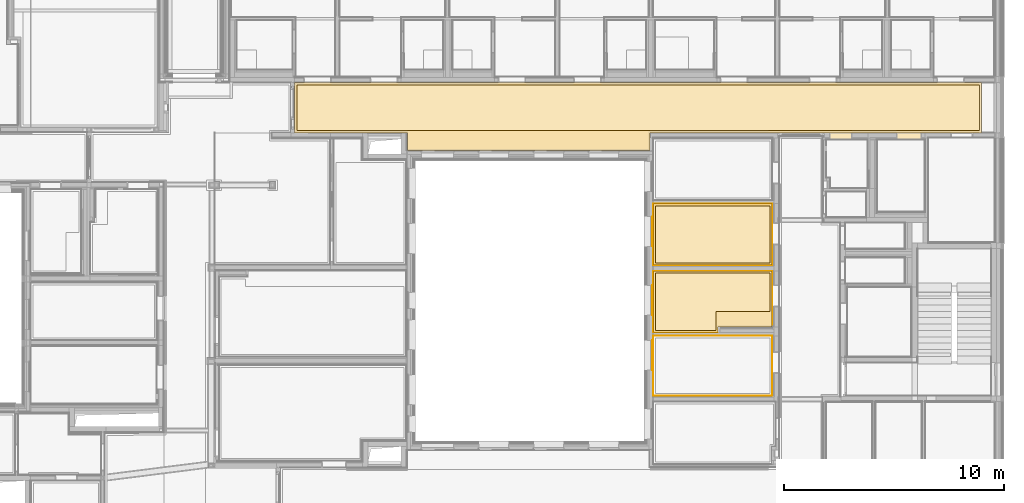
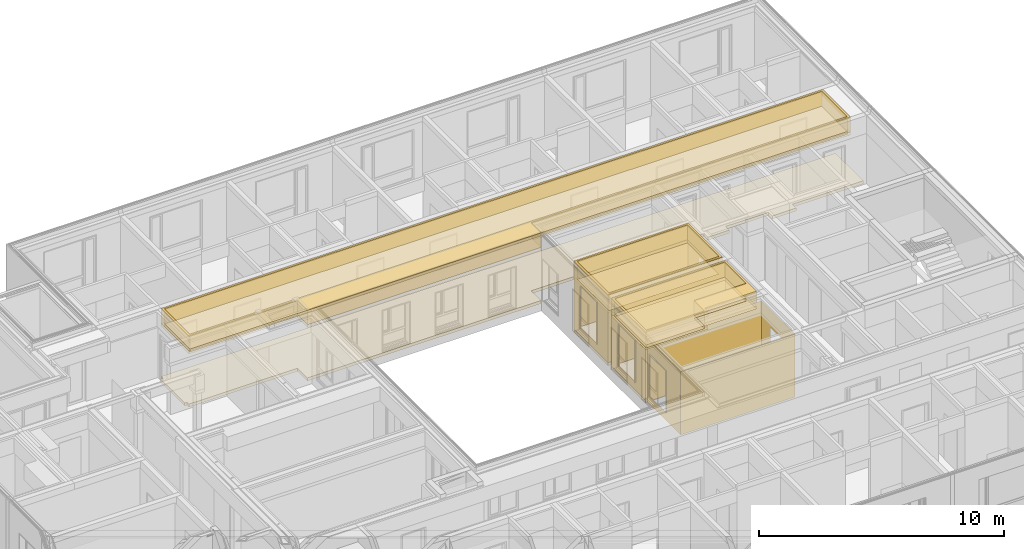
# One storey, part 192 of 222: 30 coverings.
"""IFC4 building model written with IfcOpenShell, lengths in metres."""

from ifc_helpers import new_model, entity, si_unit, converted_unit, derived_unit, frame, frame_2d, origin, origin_with_axes, place, context, subcontext, project, spatial, polyline, rectangle, outline, extrude, material, layer, layer_set, layer_usage, element, save


model = new_model("IFC4")

# Units and contexts
model_context = context("Model", 3, precision=1e-05, world=origin())
body_context = subcontext(model_context, "Body", "Model", "MODEL_VIEW")
ifc_project = project(units=[si_unit("LENGTHUNIT", "METRE"), si_unit("AREAUNIT", "SQUARE_METRE"), si_unit("VOLUMEUNIT", "CUBIC_METRE"), si_unit("MASSUNIT", "GRAM", prefix="KILO"), converted_unit("PLANEANGLEUNIT", "DEGREE", entity("IfcPlaneAngleMeasure", 0.0174532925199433), si_unit("PLANEANGLEUNIT", "RADIAN"), dimensions=[0, 0, 0, 0, 0, 0, 0]), derived_unit("THERMALTRANSMITTANCEUNIT", [(si_unit("POWERUNIT", "WATT"), 1), (si_unit("THERMODYNAMICTEMPERATUREUNIT", "KELVIN"), -1), (si_unit("LENGTHUNIT", "METRE"), -2)]), derived_unit("VOLUMETRICFLOWRATEUNIT", [(si_unit("LENGTHUNIT", "METRE"), 3), (converted_unit("TIMEUNIT", "hour", entity("IfcTimeMeasure", 3600.0), si_unit("TIMEUNIT", "SECOND"), dimensions=[0, 0, 1, 0, 0, 0, 0]), -1), (si_unit("LENGTHUNIT", "METRE"), -1)])], contexts=[model_context])

# Site, building, storey, space
site_placement = place(None, origin())
site = spatial("IfcSite", under=ifc_project, at=site_placement, Name="Psychiatrie Neubau Wunstorf", CompositionType="ELEMENT")
building_placement = place(site_placement, origin())
building = spatial("IfcBuilding", under=site, at=building_placement, Name="Neubau H2 Stationsgebäude", CompositionType="ELEMENT")
storey_placement = place(building_placement, frame((0.0, 0.0, 3.6)))
storey = spatial("IfcBuildingStorey", under=building, at=storey_placement, Name="H2 Ebene +1", CompositionType="ELEMENT", Elevation=3.6)
space_1_placement = place(storey_placement, frame((74.055, 22.036, 0.0)))
space_1 = spatial("IfcSpace", under=storey, at=space_1_placement, Name="WUN-H2-E01-073", CompositionType="ELEMENT")

# Coverings
ifc_material_1 = material()
ifc_layer_1 = layer(ifc_material_1, 0.036)
ifc_layer_set_1 = layer_set([ifc_layer_1])
ifc_layer_usage_1 = layer_usage(ifc_layer_set_1, "AXIS3", "POSITIVE", 0.0)
covering_1_placement = place(space_1_placement, frame((0.0, 0.0, 3.55)))
element("IfcCovering", 1, at=covering_1_placement, inside=space_1, material=ifc_layer_usage_1, Name="Gipsfaserplatten 2-lagig (BSK)", PredefinedType="CEILING", context=body_context, shape_type="SweptSolid", body=[
    extrude(outline(polyline([(31.234, 2.28150000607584), (16.156, 2.28150000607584), (16.156, 3.08150000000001), (5.12499963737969, 3.08150000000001), (5.12499963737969, 2.28150000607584), (0.0, 2.28150000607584), (0.0, 0.0), (31.234, 0.0), (31.234, 2.28150000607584)]), holes=[polyline([(0.1, 2.18150000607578), (31.134, 2.18150000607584), (31.134, 0.1), (0.1, 0.0999999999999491), (0.1, 2.18150000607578)])]), frame((0.0, 3.08150000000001, 0.0), z_axis=(0.0, 0.0, -1.0), x_axis=(1.0, 0.0, 0.0)), (0.0, 0.0, 1.0), 0.036),
])
ifc_material_2 = material(Name="Installationshöhe")
ifc_layer_2 = layer(ifc_material_2, 0.714)
ifc_layer_set_2 = layer_set([ifc_layer_2])
ifc_layer_usage_2 = layer_usage(ifc_layer_set_2, "AXIS3", "POSITIVE", 0.0)
covering_2_placement = place(space_1_placement, frame((0.0, 0.0, 3.514)))
element("IfcCovering", 2, at=covering_2_placement, inside=space_1, material=ifc_layer_usage_2, Name="Gipsfaserplatten 2-lagig (BSK)", PredefinedType="CEILING", context=body_context, shape_type="SweptSolid", body=[
    extrude(outline(polyline([(31.234, 2.28150000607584), (16.156, 2.28150000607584), (16.156, 3.08150000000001), (5.12499963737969, 3.08150000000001), (5.12499963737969, 2.28150000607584), (0.0, 2.28150000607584), (0.0, 0.0), (31.234, 0.0), (31.234, 2.28150000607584)]), holes=[polyline([(0.1, 2.18150000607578), (31.134, 2.18150000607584), (31.134, 0.1), (0.1, 0.0999999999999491), (0.1, 2.18150000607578)])]), frame((0.0, 3.08150000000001, 0.0), z_axis=(0.0, 0.0, -1.0), x_axis=(1.0, 0.0, 0.0)), (0.0, 0.0, 1.0), 0.714),
])
ifc_material_3 = material(Name="A1")
ifc_layer_3 = layer(ifc_material_3, 0.15)
ifc_layer_set_3 = layer_set([ifc_layer_3])
ifc_layer_usage_3 = layer_usage(ifc_layer_set_3, "AXIS3", "POSITIVE", 0.0)
covering_3_placement = place(space_1_placement, frame((0.0, 0.0, 2.8)))
element("IfcCovering", 3, at=covering_3_placement, inside=space_1, material=ifc_layer_usage_3, Name="Gipsfaserplatten 2-lagig (BSK)", PredefinedType="CEILING", context=body_context, shape_type="SweptSolid", body=[
    extrude(outline(polyline([(31.234, 2.28150000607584), (16.156, 2.28150000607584), (16.156, 3.08150000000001), (5.12499963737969, 3.08150000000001), (5.12499963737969, 2.28150000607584), (0.0, 2.28150000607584), (0.0, 0.0), (31.234, 0.0), (31.234, 2.28150000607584)]), holes=[polyline([(0.1, 2.18150000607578), (31.134, 2.18150000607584), (31.134, 0.1), (0.1, 0.0999999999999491), (0.1, 2.18150000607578)])]), frame((0.0, 3.08150000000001, 0.0), z_axis=(0.0, 0.0, -1.0), x_axis=(1.0, 0.0, 0.0)), (0.0, 0.0, 1.0), 0.15),
])
ifc_material_4 = material(Name="D1")
ifc_layer_4 = layer(ifc_material_4, 0.001)
ifc_layer_set_4 = layer_set([ifc_layer_4])
ifc_layer_usage_4 = layer_usage(ifc_layer_set_4, "AXIS3", "POSITIVE", 0.0)
covering_4_placement = place(space_1_placement, frame((0.0, 0.0, 2.65)))
element("IfcCovering", 4, at=covering_4_placement, inside=space_1, material=ifc_layer_usage_4, Name="Gipsfaserplatten 2-lagig (BSK)", PredefinedType="CEILING", context=body_context, shape_type="SweptSolid", body=[
    extrude(outline(polyline([(31.234, 2.28150000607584), (16.156, 2.28150000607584), (16.156, 3.08150000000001), (5.12499963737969, 3.08150000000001), (5.12499963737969, 2.28150000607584), (0.0, 2.28150000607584), (0.0, 0.0), (31.234, 0.0), (31.234, 2.28150000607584)]), holes=[polyline([(0.1, 2.18150000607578), (31.134, 2.18150000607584), (31.134, 0.1), (0.1, 0.0999999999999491), (0.1, 2.18150000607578)])]), frame((0.0, 3.08150000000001, 0.0), z_axis=(0.0, 0.0, -1.0), x_axis=(1.0, 0.0, 0.0)), (0.0, 0.0, 1.0), 0.001),
])
ifc_material_5 = material()
ifc_layer_5 = layer(ifc_material_5, 0.036)
ifc_layer_set_5 = layer_set([ifc_layer_5])
ifc_layer_usage_5 = layer_usage(ifc_layer_set_5, "AXIS3", "POSITIVE", 0.0)
covering_5_placement = place(space_1_placement, frame((0.1, 0.899999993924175, 3.55)))
element("IfcCovering", 5, at=covering_5_placement, inside=space_1, material=ifc_layer_usage_5, Name="Gipsfaserplatten 2-lagig (BSK)", PredefinedType="CEILING", context=body_context, shape_type="SweptSolid", body=[
    extrude(rectangle(XDim=31.034, YDim=2.08150000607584, at=frame_2d((-15.517, -1.04075000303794), x_axis=(-1.0, -1.64115819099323e-15))), frame((31.034, 0.0, 0.0), z_axis=(0.0, 0.0, -1.0), x_axis=(1.0, 0.0, 0.0)), (0.0, 0.0, 1.0), 0.036),
])
ifc_material_6 = material(Name="Installationshöhe")
ifc_layer_6 = layer(ifc_material_6, 0.714)
ifc_layer_set_6 = layer_set([ifc_layer_6])
ifc_layer_usage_6 = layer_usage(ifc_layer_set_6, "AXIS3", "POSITIVE", 0.0)
covering_6_placement = place(space_1_placement, frame((0.1, 0.899999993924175, 3.514)))
element("IfcCovering", 6, at=covering_6_placement, inside=space_1, material=ifc_layer_usage_6, Name="Gipsfaserplatten 2-lagig (BSK)", PredefinedType="CEILING", context=body_context, shape_type="SweptSolid", body=[
    extrude(rectangle(XDim=31.034, YDim=2.08150000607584, at=frame_2d((-15.517, -1.04075000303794), x_axis=(-1.0, -1.64115819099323e-15))), frame((31.034, 0.0, 0.0), z_axis=(0.0, 0.0, -1.0), x_axis=(1.0, 0.0, 0.0)), (0.0, 0.0, 1.0), 0.714),
])
ifc_material_7 = material(Name="Aa")
ifc_layer_7 = layer(ifc_material_7, 0.15)
ifc_layer_set_7 = layer_set([ifc_layer_7])
ifc_layer_usage_7 = layer_usage(ifc_layer_set_7, "AXIS3", "POSITIVE", 0.0)
covering_7_placement = place(space_1_placement, frame((0.1, 0.899999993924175, 2.8)))
element("IfcCovering", 7, at=covering_7_placement, inside=space_1, material=ifc_layer_usage_7, Name="Gipsfaserplatten 2-lagig (BSK)", PredefinedType="CEILING", context=body_context, shape_type="SweptSolid", body=[
    extrude(rectangle(XDim=31.034, YDim=2.08150000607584, at=frame_2d((-15.517, -1.04075000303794), x_axis=(-1.0, -1.64115819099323e-15))), frame((31.034, 0.0, 0.0), z_axis=(0.0, 0.0, -1.0), x_axis=(1.0, 0.0, 0.0)), (0.0, 0.0, 1.0), 0.15),
])
ifc_material_8 = material(Name="D1")
ifc_layer_8 = layer(ifc_material_8, 0.001)
ifc_layer_set_8 = layer_set([ifc_layer_8])
ifc_layer_usage_8 = layer_usage(ifc_layer_set_8, "AXIS3", "POSITIVE", 0.0)
covering_8_placement = place(space_1_placement, frame((0.1, 0.899999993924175, 2.65)))
element("IfcCovering", 8, at=covering_8_placement, inside=space_1, material=ifc_layer_usage_8, Name="Gipsfaserplatten 2-lagig (BSK)", PredefinedType="CEILING", context=body_context, shape_type="SweptSolid", body=[
    extrude(rectangle(XDim=31.034, YDim=2.08150000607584, at=frame_2d((-15.517, -1.04075000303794), x_axis=(-1.0, -1.64115819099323e-15))), frame((31.034, 0.0, 0.0), z_axis=(0.0, 0.0, -1.0), x_axis=(1.0, 0.0, 0.0)), (0.0, 0.0, 1.0), 0.001),
])
ifc_material_9 = material(Name="Ku1")
ifc_layer_9 = layer(ifc_material_9, 0.15)
ifc_layer_set_9 = layer_set([ifc_layer_9])
ifc_layer_usage_9 = layer_usage(ifc_layer_set_9, "AXIS3", "POSITIVE", 0.0)
covering_9_placement = place(space_1_placement, frame((-0.115, 0.0, 0.0)))
element("IfcCovering", 9, at=covering_9_placement, inside=space_1, material=ifc_layer_usage_9, Name="PVC Bahnenware Holzoptik", PredefinedType="FLOORING", context=body_context, shape_type="SweptSolid", body=[
    extrude(rectangle(XDim=0.115, YDim=1.9715, at=frame_2d((0.0575, 0.98575), x_axis=(1.0, 0.0))), frame((0.0, 0.955000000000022, 0.0), z_axis=(0.0, 0.0, 1.0), x_axis=(1.0, 0.0, 0.0)), (0.0, 0.0, 1.0), 0.15),
    extrude(rectangle(XDim=0.115000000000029, YDim=1.6825, at=frame_2d((-0.84125, 0.0575000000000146), x_axis=(0.0, 1.0))), frame((23.97999991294, 0.684999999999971, 0.0), z_axis=(0.0, 0.0, 1.0), x_axis=(1.0, 0.0, 0.0)), (0.0, 0.0, 1.0), 0.15),
    extrude(rectangle(XDim=0.307, YDim=1.135, at=frame_2d((0.5675, -0.1535), x_axis=(0.0, -1.0))), frame((27.4749935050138, 0.800000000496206, 0.0), z_axis=(0.0, 0.0, 1.0), x_axis=(1.0, 0.0, 0.0)), (0.0, 0.0, 1.0), 0.15),
    extrude(rectangle(XDim=0.307, YDim=1.01, at=frame_2d((0.505, -0.1535), x_axis=(0.0, -1.0))), frame((24.4350062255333, 0.800000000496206, 0.0), z_axis=(0.0, 0.0, 1.0), x_axis=(1.0, 0.0, 0.0)), (0.0, 0.0, 1.0), 0.15),
    extrude(outline(polyline([(5.12499963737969, 0.800000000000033), (5.12499963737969, 0.0), (16.156, 0.0), (16.156, 0.799999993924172), (31.834, 0.799999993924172), (31.834, 3.08150000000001), (0.0, 3.08150000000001), (0.0, 0.800000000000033), (5.12499963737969, 0.800000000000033)])), frame((0.115, 0.0, 0.0), z_axis=(0.0, 0.0, 1.0), x_axis=(1.0, 0.0, 0.0)), (0.0, 0.0, 1.0), 0.15),
])

# Space
space_2_placement = place(storey_placement, frame((90.361, 16.8255, 0.0)))
space_2 = spatial("IfcSpace", under=storey, at=space_2_placement, Name="WUN-H2-E01-085", CompositionType="ELEMENT")

# Coverings
ifc_material_10 = material()
ifc_layer_10 = layer(ifc_material_10, 0.036)
ifc_layer_set_10 = layer_set([ifc_layer_10])
ifc_layer_usage_10 = layer_usage(ifc_layer_set_10, "AXIS3", "POSITIVE", 0.0)
covering_10_placement = place(space_2_placement, frame((0.0, 0.0, 3.55)))
element("IfcCovering", 10, at=covering_10_placement, inside=space_2, material=ifc_layer_usage_10, Name="Gipsfaserplatten 2-lagig (BSK)", PredefinedType="CEILING", context=body_context, shape_type="SweptSolid", body=[
    extrude(outline(polyline([(0.0, 0.0), (5.39999990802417, 0.0), (5.39999990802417, 2.7925), (0.0, 2.7925), (0.0, 0.0)]), holes=[polyline([(0.1, 2.69249999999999), (5.29999990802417, 2.69249999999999), (5.29999990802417, 0.0999999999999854), (0.1, 0.0999999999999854), (0.1, 2.69249999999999)])]), frame((0.0, 2.7925, 0.0), z_axis=(0.0, 0.0, -1.0), x_axis=(1.0, 0.0, 0.0)), (0.0, 0.0, 1.0), 0.036),
])
ifc_material_11 = material(Name="Installationshöhe")
ifc_layer_11 = layer(ifc_material_11, 0.714)
ifc_layer_set_11 = layer_set([ifc_layer_11])
ifc_layer_usage_11 = layer_usage(ifc_layer_set_11, "AXIS3", "POSITIVE", 0.0)
covering_11_placement = place(space_2_placement, frame((0.0, 0.0, 3.514)))
element("IfcCovering", 11, at=covering_11_placement, inside=space_2, material=ifc_layer_usage_11, Name="Gipsfaserplatten 2-lagig (BSK)", PredefinedType="CEILING", context=body_context, shape_type="SweptSolid", body=[
    extrude(outline(polyline([(0.0, 0.0), (5.39999990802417, 0.0), (5.39999990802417, 2.7925), (0.0, 2.7925), (0.0, 0.0)]), holes=[polyline([(0.1, 2.69249999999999), (5.29999990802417, 2.69249999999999), (5.29999990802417, 0.0999999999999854), (0.1, 0.0999999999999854), (0.1, 2.69249999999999)])]), frame((0.0, 2.7925, 0.0), z_axis=(0.0, 0.0, -1.0), x_axis=(1.0, 0.0, 0.0)), (0.0, 0.0, 1.0), 0.714),
])
ifc_material_12 = material(Name="A1")
ifc_layer_12 = layer(ifc_material_12, 0.15)
ifc_layer_set_12 = layer_set([ifc_layer_12])
ifc_layer_usage_12 = layer_usage(ifc_layer_set_12, "AXIS3", "POSITIVE", 0.0)
covering_12_placement = place(space_2_placement, frame((0.0, 0.0, 2.8)))
element("IfcCovering", 12, at=covering_12_placement, inside=space_2, material=ifc_layer_usage_12, Name="Gipsfaserplatten 2-lagig (BSK)", PredefinedType="CEILING", context=body_context, shape_type="SweptSolid", body=[
    extrude(outline(polyline([(0.0, 0.0), (5.39999990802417, 0.0), (5.39999990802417, 2.7925), (0.0, 2.7925), (0.0, 0.0)]), holes=[polyline([(0.1, 2.69249999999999), (5.29999990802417, 2.69249999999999), (5.29999990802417, 0.0999999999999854), (0.1, 0.0999999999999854), (0.1, 2.69249999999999)])]), frame((0.0, 2.7925, 0.0), z_axis=(0.0, 0.0, -1.0), x_axis=(1.0, 0.0, 0.0)), (0.0, 0.0, 1.0), 0.15),
])
ifc_material_13 = material(Name="D1")
ifc_layer_13 = layer(ifc_material_13, 0.001)
ifc_layer_set_13 = layer_set([ifc_layer_13])
ifc_layer_usage_13 = layer_usage(ifc_layer_set_13, "AXIS3", "POSITIVE", 0.0)
covering_13_placement = place(space_2_placement, frame((0.0, 0.0, 2.65)))
element("IfcCovering", 13, at=covering_13_placement, inside=space_2, material=ifc_layer_usage_13, Name="Gipsfaserplatten 2-lagig (BSK)", PredefinedType="CEILING", context=body_context, shape_type="SweptSolid", body=[
    extrude(outline(polyline([(0.0, 0.0), (5.39999990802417, 0.0), (5.39999990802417, 2.7925), (0.0, 2.7925), (0.0, 0.0)]), holes=[polyline([(0.1, 2.69249999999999), (5.29999990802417, 2.69249999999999), (5.29999990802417, 0.0999999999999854), (0.1, 0.0999999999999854), (0.1, 2.69249999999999)])]), frame((0.0, 2.7925, 0.0), z_axis=(0.0, 0.0, -1.0), x_axis=(1.0, 0.0, 0.0)), (0.0, 0.0, 1.0), 0.001),
])
ifc_material_14 = material()
ifc_layer_14 = layer(ifc_material_14, 0.036)
ifc_layer_set_14 = layer_set([ifc_layer_14])
ifc_layer_usage_14 = layer_usage(ifc_layer_set_14, "AXIS3", "POSITIVE", 0.0)
covering_14_placement = place(space_2_placement, frame((0.1, 0.100000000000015, 3.55)))
element("IfcCovering", 14, at=covering_14_placement, inside=space_2, material=ifc_layer_usage_14, Name="Gipsfaserplatten 2-lagig (BSK)", PredefinedType="CEILING", context=body_context, shape_type="SweptSolid", body=[
    extrude(rectangle(XDim=5.19999990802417, YDim=2.5925, at=frame_2d((-2.59999995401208, -1.29625), x_axis=(-1.0, 0.0))), frame((5.19999990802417, 0.0, 0.0), z_axis=(0.0, 0.0, -1.0), x_axis=(1.0, 0.0, 0.0)), (0.0, 0.0, 1.0), 0.036),
])
ifc_material_15 = material(Name="Installationshöhe")
ifc_layer_15 = layer(ifc_material_15, 0.714)
ifc_layer_set_15 = layer_set([ifc_layer_15])
ifc_layer_usage_15 = layer_usage(ifc_layer_set_15, "AXIS3", "POSITIVE", 0.0)
covering_15_placement = place(space_2_placement, frame((0.1, 0.100000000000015, 3.514)))
element("IfcCovering", 15, at=covering_15_placement, inside=space_2, material=ifc_layer_usage_15, Name="Gipsfaserplatten 2-lagig (BSK)", PredefinedType="CEILING", context=body_context, shape_type="SweptSolid", body=[
    extrude(rectangle(XDim=5.19999990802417, YDim=2.5925, at=frame_2d((-2.59999995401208, -1.29625), x_axis=(-1.0, 0.0))), frame((5.19999990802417, 0.0, 0.0), z_axis=(0.0, 0.0, -1.0), x_axis=(1.0, 0.0, 0.0)), (0.0, 0.0, 1.0), 0.714),
])
ifc_material_16 = material(Name="Aa")
ifc_layer_16 = layer(ifc_material_16, 0.15)
ifc_layer_set_16 = layer_set([ifc_layer_16])
ifc_layer_usage_16 = layer_usage(ifc_layer_set_16, "AXIS3", "POSITIVE", 0.0)
covering_16_placement = place(space_2_placement, frame((0.1, 0.100000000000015, 2.8)))
element("IfcCovering", 16, at=covering_16_placement, inside=space_2, material=ifc_layer_usage_16, Name="Gipsfaserplatten 2-lagig (BSK)", PredefinedType="CEILING", context=body_context, shape_type="SweptSolid", body=[
    extrude(rectangle(XDim=5.19999990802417, YDim=2.5925, at=frame_2d((-2.59999995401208, -1.29625), x_axis=(-1.0, 0.0))), frame((5.19999990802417, 0.0, 0.0), z_axis=(0.0, 0.0, -1.0), x_axis=(1.0, 0.0, 0.0)), (0.0, 0.0, 1.0), 0.15),
])
ifc_material_17 = material(Name="D1")
ifc_layer_17 = layer(ifc_material_17, 0.001)
ifc_layer_set_17 = layer_set([ifc_layer_17])
ifc_layer_usage_17 = layer_usage(ifc_layer_set_17, "AXIS3", "POSITIVE", 0.0)
covering_17_placement = place(space_2_placement, frame((0.1, 0.100000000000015, 2.65)))
element("IfcCovering", 17, at=covering_17_placement, inside=space_2, material=ifc_layer_usage_17, Name="Gipsfaserplatten 2-lagig (BSK)", PredefinedType="CEILING", context=body_context, shape_type="SweptSolid", body=[
    extrude(rectangle(XDim=5.19999990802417, YDim=2.5925, at=frame_2d((-2.59999995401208, -1.29625), x_axis=(-1.0, 0.0))), frame((5.19999990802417, 0.0, 0.0), z_axis=(0.0, 0.0, -1.0), x_axis=(1.0, 0.0, 0.0)), (0.0, 0.0, 1.0), 0.001),
])
ifc_material_18 = material(Name="Ku1")
ifc_layer_18 = layer(ifc_material_18, 0.15)
ifc_layer_set_18 = layer_set([ifc_layer_18])
ifc_layer_usage_18 = layer_usage(ifc_layer_set_18, "AXIS3", "POSITIVE", 0.0)
covering_18_placement = place(space_2_placement, origin())
element("IfcCovering", 18, at=covering_18_placement, inside=space_2, material=ifc_layer_usage_18, Name="PVC Bahnenware Holzoptik", PredefinedType="FLOORING", context=body_context, shape_type="SweptSolid", body=[
    extrude(rectangle(XDim=5.39999990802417, YDim=2.7925, at=frame_2d((-2.69999995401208, -1.39625), x_axis=(-1.0, 0.0))), frame((5.39999990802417, 2.7925, 0.0), z_axis=(0.0, 0.0, 1.0), x_axis=(1.0, 0.0, 0.0)), (0.0, 0.0, 1.0), 0.15),
])
ifc_material_19 = material(Name="49")
ifc_layer_19 = layer(ifc_material_19, 0.001)
ifc_layer_set_19 = layer_set([ifc_layer_19])
ifc_layer_usage_19 = layer_usage(ifc_layer_set_19, "AXIS3", "POSITIVE", 0.0)
covering_19_placement = place(space_2_placement, frame((-0.05, 0.0, 0.15)))
element("IfcCovering", 19, at=covering_19_placement, inside=space_2, material=ifc_layer_usage_19, PredefinedType="CLADDING", context=body_context, shape_type="SweptSolid", body=[
    extrude(rectangle(XDim=5.39999990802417, YDim=3.15, at=frame_2d((2.69999995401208, -1.575), x_axis=(1.0, 0.0))), frame((0.05, 0.0, 0.0), z_axis=(0.0, 1.0, 0.0), x_axis=(1.0, 0.0, 0.0)), (0.0, 0.0, 1.0), 0.001),
    extrude(outline(polyline([(0.0, 3.15), (0.914397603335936, 3.15), (0.914397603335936, 0.89), (1.92439760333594, 0.89), (1.92439760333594, 3.15), (2.7925, 3.15), (2.7925, 0.0), (0.0, 0.0), (0.0, 3.15)])), frame((5.44999990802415, 0.0, 3.15), z_axis=(-1.0, 0.0, 1.51317924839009e-15), x_axis=(0.0, 1.0, 0.0)), (0.0, 0.0, 1.0), 0.001),
    extrude(rectangle(XDim=5.39999990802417, YDim=3.15, at=frame_2d((2.69999995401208, -1.575), x_axis=(1.0, 0.0))), frame((5.44999990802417, 2.7925, 0.0), z_axis=(0.0, -1.0, 0.0), x_axis=(-1.0, 0.0, 0.0)), (0.0, 0.0, 1.0), 0.001),
    extrude(outline(polyline([(0.0, 3.15), (2.7925, 3.15), (2.7925, 0.0), (0.0, 0.0), (0.0, 3.15)]), holes=[polyline([(1.94337059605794, 2.75), (0.593370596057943, 2.75), (0.593370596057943, 0.635), (1.94337059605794, 0.635), (1.94337059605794, 2.75)])]), frame((0.05, 2.7925, 3.15), z_axis=(1.0, 0.0, 0.0), x_axis=(0.0, -1.0, 0.0)), (0.0, 0.0, 1.0), 0.001),
    extrude(rectangle(XDim=1.35, YDim=0.0499999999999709, at=frame_2d((0.0249999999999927, 0.675), x_axis=(1.07791964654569e-14, 1.0))), frame((0.0, 2.19912940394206, 2.515), z_axis=(0.0, 0.0, -1.0), x_axis=(1.0, 0.0, 0.0)), (0.0, 0.0, 1.0), 0.001),
    extrude(rectangle(XDim=2.115, YDim=0.0499999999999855, at=frame_2d((-0.0249999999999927, -1.0575), x_axis=(0.0, -1.0))), frame((0.0, 2.19912940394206, 0.4), z_axis=(0.0, -1.0, 0.0), x_axis=(-1.0, 0.0, 0.0)), (0.0, 0.0, 1.0), 0.001),
    extrude(rectangle(XDim=2.115, YDim=0.0499999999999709, at=frame_2d((-0.0249999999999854, -1.0575), x_axis=(0.0, -1.0))), frame((0.0499999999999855, 0.849129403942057, 0.4), z_axis=(0.0, 1.0, 0.0), x_axis=(1.0, 0.0, 0.0)), (0.0, 0.0, 1.0), 0.001),
])

# Space
space_3_placement = place(storey_placement, frame((90.361, 13.7609999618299, 0.0)))
space_3 = spatial("IfcSpace", under=storey, at=space_3_placement, Name="WUN-H2-E01-084", CompositionType="ELEMENT")

# Coverings
ifc_material_20 = material()
ifc_layer_20 = layer(ifc_material_20, 0.036)
ifc_layer_set_20 = layer_set([ifc_layer_20])
ifc_layer_usage_20 = layer_usage(ifc_layer_set_20, "AXIS3", "POSITIVE", 0.0)
covering_20_placement = place(space_3_placement, frame((0.0999999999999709, 0.100000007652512, 3.55)))
element("IfcCovering", 20, at=covering_20_placement, inside=space_3, material=ifc_layer_usage_20, Name="Gipsfaserplatten 2-lagig (BSK)", PredefinedType="CEILING", context=body_context, shape_type="SweptSolid", body=[
    extrude(outline(polyline([(0.0, 2.59249999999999), (0.0, 0.0), (5.19999990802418, 0.0), (5.19999997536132, 1.74250023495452), (2.74249990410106, 1.74250026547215), (2.74249990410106, 2.59250003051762), (0.0, 2.59249999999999)])), frame((0.0, 2.59250003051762, 0.0), z_axis=(0.0, 0.0, -1.0), x_axis=(1.0, 0.0, 0.0)), (0.0, 0.0, 1.0), 0.036),
])
ifc_material_21 = material(Name="Installationshöhe")
ifc_layer_21 = layer(ifc_material_21, 0.714)
ifc_layer_set_21 = layer_set([ifc_layer_21])
ifc_layer_usage_21 = layer_usage(ifc_layer_set_21, "AXIS3", "POSITIVE", 0.0)
covering_21_placement = place(space_3_placement, frame((0.0999999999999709, 0.100000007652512, 3.514)))
element("IfcCovering", 21, at=covering_21_placement, inside=space_3, material=ifc_layer_usage_21, Name="Gipsfaserplatten 2-lagig (BSK)", PredefinedType="CEILING", context=body_context, shape_type="SweptSolid", body=[
    extrude(outline(polyline([(0.0, 2.59249999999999), (0.0, 0.0), (5.19999990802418, 0.0), (5.19999997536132, 1.74250023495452), (2.74249990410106, 1.74250026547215), (2.74249990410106, 2.59250003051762), (0.0, 2.59249999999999)])), frame((0.0, 2.59250003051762, 0.0), z_axis=(0.0, 0.0, -1.0), x_axis=(1.0, 0.0, 0.0)), (0.0, 0.0, 1.0), 0.714),
])
ifc_material_22 = material(Name="Aa")
ifc_layer_22 = layer(ifc_material_22, 0.15)
ifc_layer_set_22 = layer_set([ifc_layer_22])
ifc_layer_usage_22 = layer_usage(ifc_layer_set_22, "AXIS3", "POSITIVE", 0.0)
covering_22_placement = place(space_3_placement, frame((0.0999999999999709, 0.100000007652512, 2.8)))
element("IfcCovering", 22, at=covering_22_placement, inside=space_3, material=ifc_layer_usage_22, Name="Gipsfaserplatten 2-lagig (BSK)", PredefinedType="CEILING", context=body_context, shape_type="SweptSolid", body=[
    extrude(outline(polyline([(0.0, 2.59249999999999), (0.0, 0.0), (5.19999990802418, 0.0), (5.19999997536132, 1.74250023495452), (2.74249990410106, 1.74250026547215), (2.74249990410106, 2.59250003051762), (0.0, 2.59249999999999)])), frame((0.0, 2.59250003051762, 0.0), z_axis=(0.0, 0.0, -1.0), x_axis=(1.0, 0.0, 0.0)), (0.0, 0.0, 1.0), 0.15),
])
ifc_material_23 = material(Name="D1")
ifc_layer_23 = layer(ifc_material_23, 0.001)
ifc_layer_set_23 = layer_set([ifc_layer_23])
ifc_layer_usage_23 = layer_usage(ifc_layer_set_23, "AXIS3", "POSITIVE", 0.0)
covering_23_placement = place(space_3_placement, frame((0.0999999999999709, 0.100000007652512, 2.65)))
element("IfcCovering", 23, at=covering_23_placement, inside=space_3, material=ifc_layer_usage_23, Name="Gipsfaserplatten 2-lagig (BSK)", PredefinedType="CEILING", context=body_context, shape_type="SweptSolid", body=[
    extrude(outline(polyline([(0.0, 2.59249999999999), (0.0, 0.0), (5.19999990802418, 0.0), (5.19999997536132, 1.74250023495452), (2.74249990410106, 1.74250026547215), (2.74249990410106, 2.59250003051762), (0.0, 2.59249999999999)])), frame((0.0, 2.59250003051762, 0.0), z_axis=(0.0, 0.0, -1.0), x_axis=(1.0, 0.0, 0.0)), (0.0, 0.0, 1.0), 0.001),
])
ifc_material_24 = material()
ifc_layer_24 = layer(ifc_material_24, 0.036)
ifc_layer_set_24 = layer_set([ifc_layer_24])
ifc_layer_usage_24 = layer_usage(ifc_layer_set_24, "AXIS3", "POSITIVE", 0.0)
covering_24_placement = place(space_3_placement, frame((0.0, 0.0, 3.55)))
element("IfcCovering", 24, at=covering_24_placement, inside=space_3, material=ifc_layer_usage_24, Name="Gipsfaserplatten 2-lagig (BSK)", PredefinedType="CEILING", context=body_context, shape_type="SweptSolid", body=[
    extrude(outline(polyline([(2.94249990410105, 2.79250003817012), (0.0, 2.79250003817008), (0.0, 0.0), (5.39999990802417, 0.0), (5.39999990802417, 2.54250003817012), (2.94249990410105, 2.54250003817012), (2.94249990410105, 2.79250003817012)]), holes=[polyline([(5.29999990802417, 1.84250026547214), (5.29999990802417, 0.0999999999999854), (0.1, 0.0999999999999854), (0.1, 2.69250003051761), (2.84249990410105, 2.69250003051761), (2.84249990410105, 1.84250026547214), (5.29999990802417, 1.84250026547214)])]), frame((0.0, 2.79250003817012, 0.0), z_axis=(0.0, 0.0, -1.0), x_axis=(1.0, 0.0, 0.0)), (0.0, 0.0, 1.0), 0.036),
])
ifc_material_25 = material(Name="Installationshöhe")
ifc_layer_25 = layer(ifc_material_25, 0.714)
ifc_layer_set_25 = layer_set([ifc_layer_25])
ifc_layer_usage_25 = layer_usage(ifc_layer_set_25, "AXIS3", "POSITIVE", 0.0)
covering_25_placement = place(space_3_placement, frame((0.0, 0.0, 3.514)))
element("IfcCovering", 25, at=covering_25_placement, inside=space_3, material=ifc_layer_usage_25, Name="Gipsfaserplatten 2-lagig (BSK)", PredefinedType="CEILING", context=body_context, shape_type="SweptSolid", body=[
    extrude(outline(polyline([(2.94249990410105, 2.79250003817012), (0.0, 2.79250003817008), (0.0, 0.0), (5.39999990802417, 0.0), (5.39999990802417, 2.54250003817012), (2.94249990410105, 2.54250003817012), (2.94249990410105, 2.79250003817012)]), holes=[polyline([(5.29999990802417, 1.84250026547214), (5.29999990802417, 0.0999999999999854), (0.1, 0.0999999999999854), (0.1, 2.69250003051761), (2.84249990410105, 2.69250003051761), (2.84249990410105, 1.84250026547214), (5.29999990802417, 1.84250026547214)])]), frame((0.0, 2.79250003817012, 0.0), z_axis=(0.0, 0.0, -1.0), x_axis=(1.0, 0.0, 0.0)), (0.0, 0.0, 1.0), 0.714),
])
ifc_material_26 = material(Name="A1")
ifc_layer_26 = layer(ifc_material_26, 0.15)
ifc_layer_set_26 = layer_set([ifc_layer_26])
ifc_layer_usage_26 = layer_usage(ifc_layer_set_26, "AXIS3", "POSITIVE", 0.0)
covering_26_placement = place(space_3_placement, frame((0.0, 0.0, 2.8)))
element("IfcCovering", 26, at=covering_26_placement, inside=space_3, material=ifc_layer_usage_26, Name="Gipsfaserplatten 2-lagig (BSK)", PredefinedType="CEILING", context=body_context, shape_type="SweptSolid", body=[
    extrude(outline(polyline([(2.94249990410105, 2.79250003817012), (0.0, 2.79250003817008), (0.0, 0.0), (5.39999990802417, 0.0), (5.39999990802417, 2.54250003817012), (2.94249990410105, 2.54250003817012), (2.94249990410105, 2.79250003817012)]), holes=[polyline([(5.29999990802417, 1.84250026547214), (5.29999990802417, 0.0999999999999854), (0.1, 0.0999999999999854), (0.1, 2.69250003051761), (2.84249990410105, 2.69250003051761), (2.84249990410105, 1.84250026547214), (5.29999990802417, 1.84250026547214)])]), frame((0.0, 2.79250003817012, 0.0), z_axis=(0.0, 0.0, -1.0), x_axis=(1.0, 0.0, 0.0)), (0.0, 0.0, 1.0), 0.15),
])
ifc_material_27 = material(Name="D1")
ifc_layer_27 = layer(ifc_material_27, 0.001)
ifc_layer_set_27 = layer_set([ifc_layer_27])
ifc_layer_usage_27 = layer_usage(ifc_layer_set_27, "AXIS3", "POSITIVE", 0.0)
covering_27_placement = place(space_3_placement, frame((0.0, 0.0, 2.65)))
element("IfcCovering", 27, at=covering_27_placement, inside=space_3, material=ifc_layer_usage_27, Name="Gipsfaserplatten 2-lagig (BSK)", PredefinedType="CEILING", context=body_context, shape_type="SweptSolid", body=[
    extrude(outline(polyline([(2.94249990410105, 2.79250003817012), (0.0, 2.79250003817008), (0.0, 0.0), (5.39999990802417, 0.0), (5.39999990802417, 2.54250003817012), (2.94249990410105, 2.54250003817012), (2.94249990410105, 2.79250003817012)]), holes=[polyline([(5.29999990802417, 1.84250026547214), (5.29999990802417, 0.0999999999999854), (0.1, 0.0999999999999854), (0.1, 2.69250003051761), (2.84249990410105, 2.69250003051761), (2.84249990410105, 1.84250026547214), (5.29999990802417, 1.84250026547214)])]), frame((0.0, 2.79250003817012, 0.0), z_axis=(0.0, 0.0, -1.0), x_axis=(1.0, 0.0, 0.0)), (0.0, 0.0, 1.0), 0.001),
])
ifc_material_28 = material(Name="Ku1")
ifc_layer_28 = layer(ifc_material_28, 0.15)
ifc_layer_set_28 = layer_set([ifc_layer_28])
ifc_layer_usage_28 = layer_usage(ifc_layer_set_28, "AXIS3", "POSITIVE", 0.0)
covering_28_placement = place(space_3_placement, origin())
element("IfcCovering", 28, at=covering_28_placement, inside=space_3, material=ifc_layer_usage_28, Name="PVC Bahnenware Holzoptik", PredefinedType="FLOORING", context=body_context, shape_type="SweptSolid", body=[
    extrude(outline(polyline([(5.39999990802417, 0.249999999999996), (5.39999990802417, 2.79250003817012), (0.0, 2.79250003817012), (0.0, 0.0), (2.94249990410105, 0.0), (2.94249990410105, 0.249999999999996), (5.39999990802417, 0.249999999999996)])), origin_with_axes(), (0.0, 0.0, 1.0), 0.15),
])
ifc_material_29 = material(Name="49")
ifc_layer_29 = layer(ifc_material_29, 0.001)
ifc_layer_set_29 = layer_set([ifc_layer_29])
ifc_layer_usage_29 = layer_usage(ifc_layer_set_29, "AXIS3", "POSITIVE", 0.0)
covering_29_placement = place(space_3_placement, frame((-0.05, 0.0, 0.15)))
element("IfcCovering", 29, at=covering_29_placement, inside=space_3, material=ifc_layer_usage_29, PredefinedType="CLADDING", context=body_context, shape_type="SweptSolid", body=[
    extrude(rectangle(XDim=0.249999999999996, YDim=3.15, at=frame_2d((0.124999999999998, -1.575), x_axis=(1.0, 0.0))), frame((2.99249990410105, 0.0, 0.0), z_axis=(-1.0, 0.0, 0.0), x_axis=(0.0, 1.0, 0.0)), (0.0, 0.0, 1.0), 0.001),
    extrude(rectangle(XDim=2.45750000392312, YDim=3.15, at=frame_2d((1.22875000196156, -1.575), x_axis=(1.0, 0.0))), frame((2.99249990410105, 0.249999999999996, 0.0), z_axis=(0.0, 1.0, 0.0), x_axis=(1.0, 0.0, 0.0)), (0.0, 0.0, 1.0), 0.001),
    extrude(outline(polyline([(0.0, 3.15), (0.904000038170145, 3.15), (0.904000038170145, 0.89), (1.91400003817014, 0.89), (1.91400003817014, 3.15), (2.54250003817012, 3.15), (2.54250003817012, 0.0), (0.0, 0.0), (0.0, 3.15)])), frame((5.44999990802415, 0.249999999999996, 3.15), z_axis=(-1.0, 0.0, 1.64668831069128e-15), x_axis=(0.0, 1.0, 0.0)), (0.0, 0.0, 1.0), 0.001),
    extrude(rectangle(XDim=5.39999990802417, YDim=3.15, at=frame_2d((2.69999995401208, -1.575), x_axis=(1.0, 0.0))), frame((5.44999990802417, 2.79250003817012, 0.0), z_axis=(0.0, -1.0, 0.0), x_axis=(-1.0, 0.0, 0.0)), (0.0, 0.0, 1.0), 0.001),
    extrude(outline(polyline([(0.0, 3.15), (2.79250003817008, 3.15), (2.79250003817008, 0.0), (0.0, 0.0), (0.0, 3.15)]), holes=[polyline([(2.00348800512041, 2.75), (0.653488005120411, 2.75), (0.653488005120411, 0.635), (2.00348800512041, 0.635), (2.00348800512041, 2.75)])]), frame((0.0500000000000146, 2.79250003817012, 3.15), z_axis=(1.0, 0.0, 0.0), x_axis=(0.0, -1.0, 0.0)), (0.0, 0.0, 1.0), 0.001),
    extrude(rectangle(XDim=2.94249990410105, YDim=3.15, at=frame_2d((1.47124995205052, -1.575), x_axis=(1.0, 0.0))), frame((0.05, 0.0, 0.0), z_axis=(1.23635647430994e-14, 1.0, 0.0), x_axis=(1.0, -1.23635647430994e-14, 0.0)), (0.0, 0.0, 1.0), 0.001),
    extrude(rectangle(XDim=0.05, YDim=1.35, at=frame_2d((-0.0249999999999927, 0.675000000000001), x_axis=(-1.0, 0.0))), frame((0.05, 2.13901203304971, 2.515), z_axis=(0.0, 0.0, -1.0), x_axis=(1.0, 0.0, 0.0)), (0.0, 0.0, 1.0), 0.001),
    extrude(rectangle(XDim=0.05, YDim=2.115, at=frame_2d((0.025, -1.0575), x_axis=(1.0, 0.0))), frame((0.05, 2.13901203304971, 0.4), z_axis=(1.81898940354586e-14, -1.0, 4.30021135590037e-16), x_axis=(-1.0, -1.81898940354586e-14, 0.0)), (0.0, 0.0, 1.0), 0.001),
    extrude(rectangle(XDim=2.115, YDim=0.0499999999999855, at=frame_2d((-0.0249999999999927, -1.0575), x_axis=(0.0, -1.0))), frame((0.05, 0.789012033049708, 0.4), z_axis=(-3.63797880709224e-14, 1.0, 1.25152622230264e-28), x_axis=(1.0, 3.63797880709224e-14, 0.0)), (0.0, 0.0, 1.0), 0.001),
])

# Space
space_4_placement = place(storey_placement, frame((90.361, 10.8824998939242, 0.0)))
space_4 = spatial("IfcSpace", under=storey, at=space_4_placement, Name="WUN-H2-E01-083", CompositionType="ELEMENT")

# Covering
ifc_material_30 = material(Name="49")
ifc_layer_30 = layer(ifc_material_30, 0.001)
ifc_layer_set_30 = layer_set([ifc_layer_30])
ifc_layer_usage_30 = layer_usage(ifc_layer_set_30, "AXIS3", "POSITIVE", 0.0)
covering_30_placement = place(space_4_placement, frame((-0.05, 0.0, 0.15)))
element("IfcCovering", 30, at=covering_30_placement, inside=space_4, material=ifc_layer_usage_30, PredefinedType="CLADDING", context=body_context, shape_type="SweptSolid", body=[
    extrude(rectangle(XDim=5.39999990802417, YDim=3.15, at=frame_2d((2.69999995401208, -1.575), x_axis=(1.0, 0.0))), frame((0.05, 0.0, 0.0), z_axis=(0.0, 1.0, 0.0), x_axis=(1.0, 0.0, 0.0)), (0.0, 0.0, 1.0), 0.001),
    extrude(outline(polyline([(0.0, 3.15), (1.00750010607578, 3.15), (1.00750010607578, 0.89), (2.01750010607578, 0.89), (2.01750010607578, 3.15), (2.72850006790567, 3.15), (2.72850006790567, 0.0), (0.0, 0.0), (0.0, 3.15)])), frame((5.44999990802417, 0.0, 3.15), z_axis=(-1.0, 3.40414459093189e-16, -1.42993199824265e-15), x_axis=(3.40414459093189e-16, 1.0, 0.0)), (0.0, 0.0, 1.0), 0.001),
    extrude(rectangle(XDim=5.39999990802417, YDim=3.15, at=frame_2d((2.69999995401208, -1.575), x_axis=(1.0, 0.0))), frame((5.44999990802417, 2.72850006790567, 0.0), z_axis=(0.0, -1.0, 0.0), x_axis=(-1.0, 0.0, 0.0)), (0.0, 0.0, 1.0), 0.001),
    extrude(outline(polyline([(0.0, 3.15), (2.72850006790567, 3.15), (2.72850006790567, 0.0), (0.0, 0.0), (0.0, 3.15)]), holes=[polyline([(1.56098796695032, 2.75), (0.210987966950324, 2.75), (0.210987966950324, 0.635), (1.56098796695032, 0.635), (1.56098796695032, 2.75)])]), frame((0.0500000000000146, 2.72850006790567, 3.15), z_axis=(1.0, 0.0, 0.0), x_axis=(0.0, -1.0, 0.0)), (0.0, 0.0, 1.0), 0.001),
    extrude(rectangle(XDim=1.35, YDim=0.05, at=frame_2d((0.0250000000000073, 0.675), x_axis=(1.07791964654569e-14, 1.0))), frame((0.0, 2.51751210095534, 2.515), z_axis=(0.0, 0.0, -1.0), x_axis=(1.0, 0.0, 0.0)), (0.0, 0.0, 1.0), 0.001),
    extrude(rectangle(XDim=2.115, YDim=0.0500000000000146, at=frame_2d((-0.0250000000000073, -1.0575), x_axis=(0.0, -1.0))), frame((0.0, 2.51751210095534, 0.4), z_axis=(0.0, -1.0, 0.0), x_axis=(-1.0, 0.0, 0.0)), (0.0, 0.0, 1.0), 0.001),
    extrude(rectangle(XDim=2.115, YDim=0.05, at=frame_2d((-0.025, -1.0575), x_axis=(0.0, -1.0))), frame((0.0500000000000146, 1.16751210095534, 0.4), z_axis=(0.0, 1.0, 0.0), x_axis=(1.0, 0.0, 0.0)), (0.0, 0.0, 1.0), 0.001),
])

save(model, "model.ifc")
